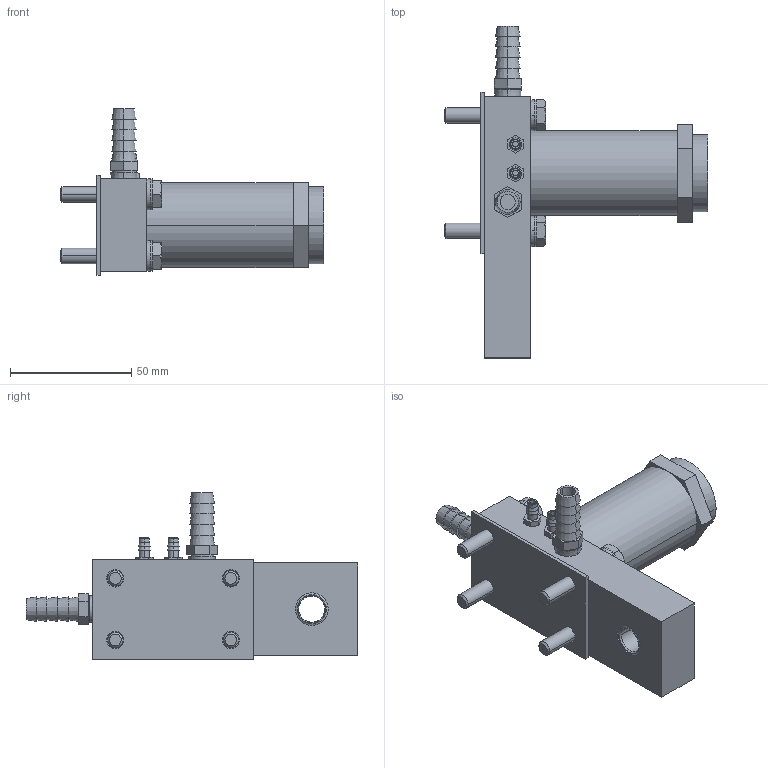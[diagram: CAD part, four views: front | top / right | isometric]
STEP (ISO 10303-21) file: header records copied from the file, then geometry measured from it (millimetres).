
FILE_DESCRIPTION((''),'2;1');
FILE_NAME('XJR3_ASM','2017-08-24T',('jennifer.elliott'),('CenterLine (Windsor) Ltd - Automation Components Division'),'PRO/ENGINEER BY PARAMETRIC TECHNOLOGY CORPORATION, 2015030','PRO/ENGINEER BY PARAMETRIC TECHNOLOGY CORPORATION, 2015030','');
FILE_SCHEMA(('AUTOMOTIVE_DESIGN { 1 0 10303 214 1 1 1 1 }'));
Length unit declared in the file: inch
Products named in the file (23): PRT1349; PRT1350; PRT1351; PRT1352; PRT1353; PRT1354; PRT1355; PRT1356; PRT1357; PRT1358; PRT1359; PRT1360; PRT1361; PRT1362; PRT1363; PRT1364; PRT1365; PRT1366; PRT1367; PRT1368; PRT1369; PRT1370; XJR3_ASM
Assembly tree (22 placements, depth 2):
  XJR3_ASM
    PRT1349
    PRT1350
    PRT1351
    PRT1352
    PRT1353
    PRT1354
    PRT1355
    PRT1356
    PRT1357
    PRT1358
    PRT1359
    PRT1360
    PRT1361
    PRT1362
    PRT1363
    PRT1364
    PRT1365
    PRT1366
    PRT1367
    PRT1368
    PRT1369
    PRT1370
Bounding box: 108.78 x 136.91 x 68.64 mm (x, y, z)
Volume: 156654.1 mm3; surface area: 49608.1 mm2
Topology: 22 solids, 22 shells, 308 faces, 660 edges, 424 vertices
Faces by surface type: plane 134, cylinder 94, cone 72, torus 8
Entity records: 10110 total; most frequent: CARTESIAN_POINT 1756, DIRECTION 1626, ORIENTED_EDGE 1320, AXIS2_PLACEMENT_3D 661, EDGE_CURVE 660, VERTEX_POINT 424, EDGE_LOOP 380, FACE_OUTER_BOUND 308
